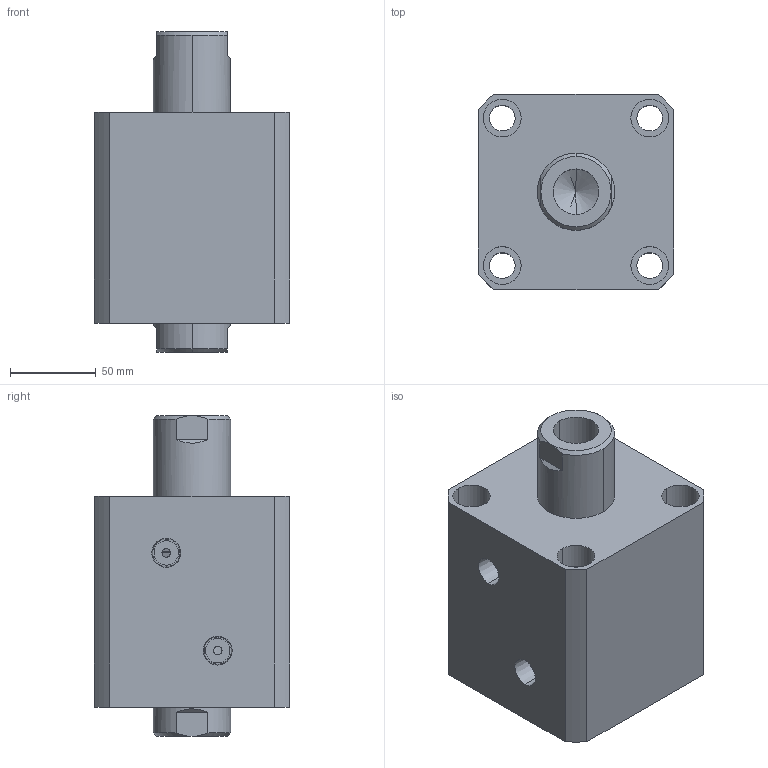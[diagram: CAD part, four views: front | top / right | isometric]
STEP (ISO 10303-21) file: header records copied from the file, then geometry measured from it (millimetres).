
FILE_DESCRIPTION (( 'STEP AP214' ), '1' );
FILE_NAME ('chtb-sw80x30n_asm.STEP', '2018-05-28T00:46:17', ( 'Windows' ), ( 'Microsoft' ), 'SwSTEP 2.0', 'SolidWorks 2015', '' );
FILE_SCHEMA (( 'AUTOMOTIVE_DESIGN' ));
Length unit declared in the file: millimetre
Products named in the file (4): CHTB-SW80X30NBT; CHTB-SD80X30NHSG; CHTB-SD80QG; chtb-sw80x30n_asm
Assembly tree (3 placements, depth 2):
  chtb-sw80x30n_asm
    CHTB-SD80QG
    CHTB-SD80X30NHSG
    CHTB-SW80X30NBT
Bounding box: 114 x 114 x 187 mm (x, y, z)
Volume: 1401387.9 mm3; surface area: 204462.5 mm2
Topology: 3 solids, 3 shells, 208 faces, 550 edges, 365 vertices
Faces by surface type: cylinder 109, plane 42, cone 25, torus 18, bspline 14
Entity records: 15645 total; most frequent: CARTESIAN_POINT 10539, ORIENTED_EDGE 1084, DIRECTION 970, EDGE_CURVE 542, AXIS2_PLACEMENT_3D 407, VERTEX_POINT 365, EDGE_LOOP 249, ADVANCED_FACE 208
